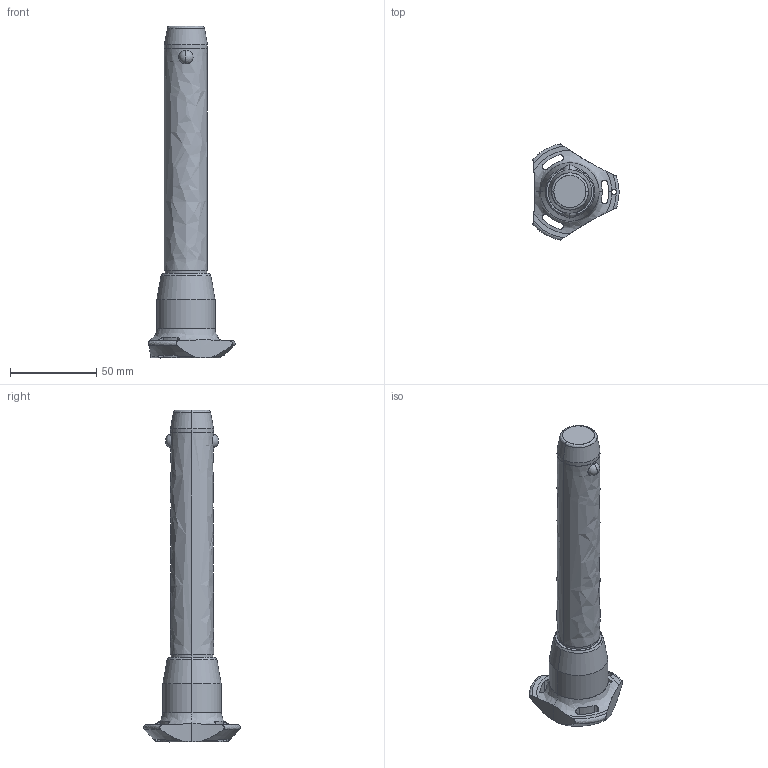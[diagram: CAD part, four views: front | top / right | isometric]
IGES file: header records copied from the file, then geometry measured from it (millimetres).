
Start section: SolidWorks IGES file using analytic representation for surfaces
Global section: file name: C:\Users\ianosborn\Desktop\QR1726_v2\QR1726_v2_20251115_IGES\QR1726.M25-120-T.igs; native system: SolidWorks 2019; preprocessor: SolidWorks 2019; author: IanOsborn; date: 251113.113032; units: millimetre
Bounding box: 50.03 x 56.02 x 192.7 mm (x, y, z)
Surface area: 20886.9 mm2 (no closed solid volume)
Topology: 0 solids, 0 shells, 68 faces, 1382 edges, 1378 vertices
Faces by surface type: revolution 52, bspline 16
